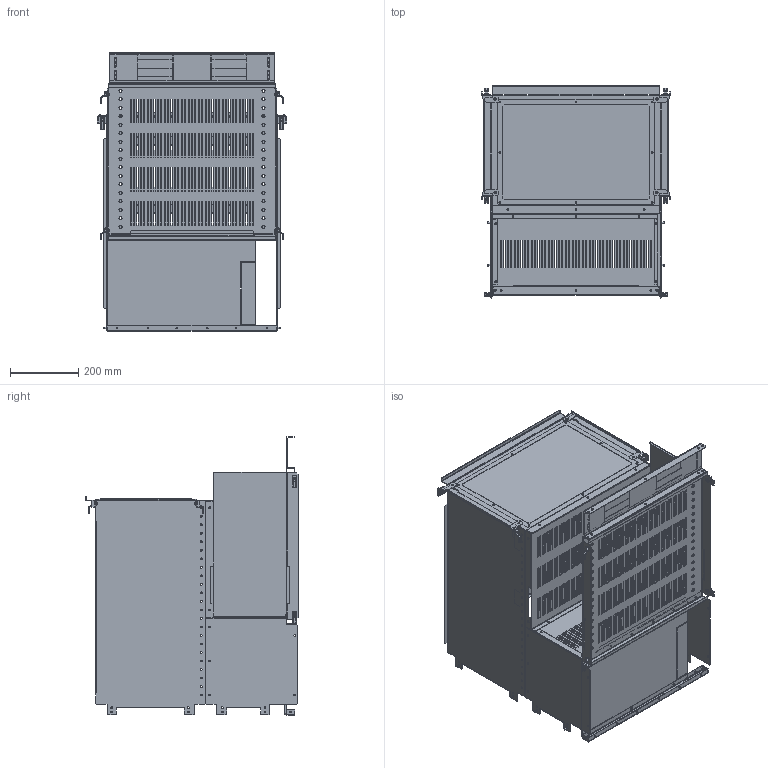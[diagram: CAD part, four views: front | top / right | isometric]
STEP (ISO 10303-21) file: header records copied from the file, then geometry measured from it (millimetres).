
FILE_DESCRIPTION(('CAx-IF Rec.Pracs.---Model Styling and Organization---1.2---2011-12-15','CAx-IF Rec.Pracs.---Geometric and Assembly Validation Properties---4.1---2014-06-16','CAx-IF Rec.Pracs.---PMI Polyline Presentation---2.0---2013-05-24'),'2;1');
FILE_NAME('R5FCMR66048 (W).stp','2021-05-06T02:39:20+03:00',(''),(''),'STEP Interface 4.4 by CT CoreTechnologie','3D_Evolution4.4 by CT CoreTechnologie','');
FILE_SCHEMA(('AUTOMOTIVE_DESIGN { 1 0 10303 214 1 1 1 1 }'));
Length unit declared in the file: millimetre
Products named in the file (21): R5FCMR66048 (W); M6x16-DIN 7985 ISR_thread; AC00C485; RB.0696.00.00.1_-00; RB.0699.00.00.1_-01; RB.0705.00.00.1_-03; M5x12-DIN7500C_stright; RB.0700.00.00.1_-01; RB.0706.00.00.1_-01; RB.0705.00.00.1_-07; RB.1165.00.00.0_-03; RB.0546.00.00.0_-01; RB.0691.00.00.1_-02; RB.0694.00.00.1_-00; RB.0708.00.00.1_-00; RB.0546.00.00.0_-00; RB.0697.00.00.1_-01; RB.0698.00.00.1_-04; RB.0707.00.00.1_-01; RB.0706.00.00.1_-03; RB.0695.00.00.1_-00
Assembly tree (40 placements, depth 2):
  R5FCMR66048 (W)
    M6x16-DIN 7985 ISR_thread  x8
    AC00C485  x8
    RB.0696.00.00.1_-00  x2
    RB.0699.00.00.1_-01
    RB.0705.00.00.1_-03
    M5x12-DIN7500C_stright  x4
    RB.0700.00.00.1_-01
    RB.0706.00.00.1_-01
    RB.0705.00.00.1_-07
    RB.1165.00.00.0_-03
    RB.0546.00.00.0_-01  x2
    RB.0691.00.00.1_-02
    RB.0694.00.00.1_-00
    RB.0708.00.00.1_-00
    RB.0546.00.00.0_-00  x2
    RB.0697.00.00.1_-01
    RB.0698.00.00.1_-04
    RB.0707.00.00.1_-01
    RB.0706.00.00.1_-03
    RB.0695.00.00.1_-00
Bounding box: 555.5 x 624 x 818.5 mm (x, y, z)
Surface area: 3599581.4 mm2 (no closed solid volume)
Topology: 0 solids, 58 shells, 3469 faces, 9659 edges, 6274 vertices
Faces by surface type: plane 2397, cylinder 948, bspline 124
Entity records: 89398 total; most frequent: CARTESIAN_POINT 15937, ORIENTED_EDGE 15120, DIRECTION 13982, EDGE_CURVE 7560, VECTOR 6386, LINE 6386, VERTEX_POINT 4981, AXIS2_PLACEMENT_3D 3798
